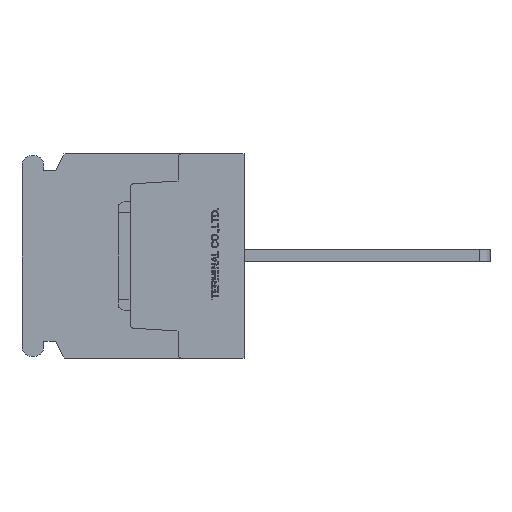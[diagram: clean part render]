
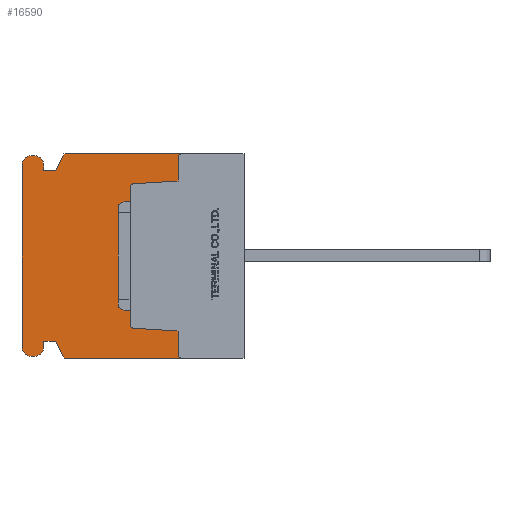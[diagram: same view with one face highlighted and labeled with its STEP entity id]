
A CAD part, left-side view. The second image highlights one B-rep face of the part: STEP entity #16590.
In plain terms, the highlighted planar face has unit normal (-1, 0, 0).
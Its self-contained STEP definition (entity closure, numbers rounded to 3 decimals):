
#977=CIRCLE('',#17624,0.3);
#979=CIRCLE('',#17628,0.3);
#981=CIRCLE('',#17633,0.3);
#983=CIRCLE('',#17636,0.3);
#992=CIRCLE('',#17793,0.75);
#993=CIRCLE('',#17794,0.75);
#994=CIRCLE('',#17795,0.75);
#995=CIRCLE('',#17796,0.75);
#1934=VERTEX_POINT('',#24763);
#1935=VERTEX_POINT('',#24765);
#1959=VERTEX_POINT('',#24819);
#1960=VERTEX_POINT('',#24821);
#2197=VERTEX_POINT('',#25651);
#2198=VERTEX_POINT('',#25652);
#2201=VERTEX_POINT('',#25660);
#2215=VERTEX_POINT('',#25690);
#2217=VERTEX_POINT('',#25696);
#2219=VERTEX_POINT('',#25702);
#2221=VERTEX_POINT('',#25708);
#2223=VERTEX_POINT('',#25717);
#2570=VERTEX_POINT('',#27259);
#2571=VERTEX_POINT('',#27261);
#2572=VERTEX_POINT('',#27263);
#2573=VERTEX_POINT('',#27265);
#2574=VERTEX_POINT('',#27267);
#2575=VERTEX_POINT('',#27269);
#2576=VERTEX_POINT('',#27271);
#2577=VERTEX_POINT('',#27273);
#2578=VERTEX_POINT('',#27275);
#2579=VERTEX_POINT('',#27277);
#2580=VERTEX_POINT('',#27279);
#2581=VERTEX_POINT('',#27281);
#3636=VECTOR('',#19843,1.);
#3664=VECTOR('',#19875,1.);
#3906=VECTOR('',#20548,1.);
#3923=VECTOR('',#20572,1.);
#3927=VECTOR('',#20583,1.);
#3930=VECTOR('',#20587,1.);
#3934=VECTOR('',#20604,1.);
#4347=VECTOR('',#21182,1.);
#4348=VECTOR('',#21183,1.);
#4349=VECTOR('',#21184,1.);
#4350=VECTOR('',#21187,1.);
#4351=VECTOR('',#21190,1.);
#4352=VECTOR('',#21193,1.);
#4353=VECTOR('',#21196,1.);
#4354=VECTOR('',#21197,1.);
#4355=VECTOR('',#21198,1.);
#5406=LINE('',#24764,#3636);
#5434=LINE('',#24820,#3664);
#5676=LINE('',#25650,#3906);
#5693=LINE('',#25689,#3923);
#5697=LINE('',#25701,#3927);
#5700=LINE('',#25707,#3930);
#5704=LINE('',#25722,#3934);
#6117=LINE('',#27258,#4347);
#6118=LINE('',#27260,#4348);
#6119=LINE('',#27262,#4349);
#6120=LINE('',#27266,#4350);
#6121=LINE('',#27270,#4351);
#6122=LINE('',#27274,#4352);
#6123=LINE('',#27278,#4353);
#6124=LINE('',#27280,#4354);
#6125=LINE('',#27282,#4355);
#7557=EDGE_CURVE('',#1934,#1935,#5406,.T.);
#7586=EDGE_CURVE('',#1959,#1960,#5434,.T.);
#7959=EDGE_CURVE('',#2197,#2198,#5676,.T.);
#7963=EDGE_CURVE('',#2201,#2197,#977,.T.);
#7978=EDGE_CURVE('',#2215,#2201,#5693,.T.);
#7981=EDGE_CURVE('',#2217,#2215,#979,.T.);
#7984=EDGE_CURVE('',#2219,#2217,#5697,.T.);
#7987=EDGE_CURVE('',#2221,#2219,#5700,.T.);
#7990=EDGE_CURVE('',#1960,#2221,#981,.T.);
#7992=EDGE_CURVE('',#2223,#1934,#983,.T.);
#7995=EDGE_CURVE('',#2198,#2223,#5704,.T.);
#8519=EDGE_CURVE('',#2570,#1959,#6117,.T.);
#8520=EDGE_CURVE('',#2571,#2570,#6118,.T.);
#8521=EDGE_CURVE('',#2572,#2571,#6119,.T.);
#8522=EDGE_CURVE('',#2573,#2572,#992,.T.);
#8523=EDGE_CURVE('',#2574,#2573,#6120,.T.);
#8524=EDGE_CURVE('',#2575,#2574,#993,.T.);
#8525=EDGE_CURVE('',#2576,#2575,#6121,.T.);
#8526=EDGE_CURVE('',#2577,#2576,#994,.T.);
#8527=EDGE_CURVE('',#2578,#2577,#6122,.T.);
#8528=EDGE_CURVE('',#2579,#2578,#995,.T.);
#8529=EDGE_CURVE('',#2580,#2579,#6123,.T.);
#8530=EDGE_CURVE('',#2581,#2580,#6124,.T.);
#8531=EDGE_CURVE('',#1935,#2581,#6125,.T.);
#13236=ORIENTED_EDGE('',*,*,#7990,.F.);
#13237=ORIENTED_EDGE('',*,*,#7586,.F.);
#13238=ORIENTED_EDGE('',*,*,#8519,.F.);
#13239=ORIENTED_EDGE('',*,*,#8520,.F.);
#13240=ORIENTED_EDGE('',*,*,#8521,.F.);
#13241=ORIENTED_EDGE('',*,*,#8522,.F.);
#13242=ORIENTED_EDGE('',*,*,#8523,.F.);
#13243=ORIENTED_EDGE('',*,*,#8524,.F.);
#13244=ORIENTED_EDGE('',*,*,#8525,.F.);
#13245=ORIENTED_EDGE('',*,*,#8526,.F.);
#13246=ORIENTED_EDGE('',*,*,#8527,.F.);
#13247=ORIENTED_EDGE('',*,*,#8528,.F.);
#13248=ORIENTED_EDGE('',*,*,#8529,.F.);
#13249=ORIENTED_EDGE('',*,*,#8530,.F.);
#13250=ORIENTED_EDGE('',*,*,#8531,.F.);
#13251=ORIENTED_EDGE('',*,*,#7557,.F.);
#13252=ORIENTED_EDGE('',*,*,#7992,.F.);
#13253=ORIENTED_EDGE('',*,*,#7995,.F.);
#13254=ORIENTED_EDGE('',*,*,#7959,.F.);
#13255=ORIENTED_EDGE('',*,*,#7963,.F.);
#13256=ORIENTED_EDGE('',*,*,#7978,.F.);
#13257=ORIENTED_EDGE('',*,*,#7981,.F.);
#13258=ORIENTED_EDGE('',*,*,#7984,.F.);
#13259=ORIENTED_EDGE('',*,*,#7987,.F.);
#14583=EDGE_LOOP('',(#13236,#13237,#13238,#13239,#13240,#13241,#13242,#13243,
#13244,#13245,#13246,#13247,#13248,#13249,#13250,#13251,#13252,#13253,#13254,
#13255,#13256,#13257,#13258,#13259));
#15639=FACE_BOUND('',#14583,.T.);
#16590=ADVANCED_FACE('',(#15639),#28188,.F.);
#17624=AXIS2_PLACEMENT_3D('',#25659,#20554,#20555);
#17628=AXIS2_PLACEMENT_3D('',#25695,#20577,#20578);
#17633=AXIS2_PLACEMENT_3D('',#25713,#20592,#20593);
#17636=AXIS2_PLACEMENT_3D('',#25716,#20598,#20599);
#17792=AXIS2_PLACEMENT_3D('',#27257,#21181,$);
#17793=AXIS2_PLACEMENT_3D('',#27264,#21185,#21186);
#17794=AXIS2_PLACEMENT_3D('',#27268,#21188,#21189);
#17795=AXIS2_PLACEMENT_3D('',#27272,#21191,#21192);
#17796=AXIS2_PLACEMENT_3D('',#27276,#21194,#21195);
#19843=DIRECTION('',(0.,1.,0.));
#19875=DIRECTION('',(0.,-1.,0.));
#20548=DIRECTION('',(0.,-0.998,-0.062));
#20554=DIRECTION('',(-1.,0.,0.));
#20555=DIRECTION('',(0.,0.,-0.3));
#20572=DIRECTION('',(0.,0.,-1.));
#20577=DIRECTION('',(-1.,0.,0.));
#20578=DIRECTION('',(0.,0.,-0.3));
#20583=DIRECTION('',(0.,0.998,-0.062));
#20587=DIRECTION('',(0.,0.,-1.));
#20592=DIRECTION('',(-1.,0.,0.));
#20593=DIRECTION('',(0.,0.,-0.3));
#20598=DIRECTION('',(-1.,0.,0.));
#20599=DIRECTION('',(0.,0.,-0.3));
#20604=DIRECTION('',(0.,0.,-1.));
#21181=DIRECTION('',(1.,0.,0.));
#21182=DIRECTION('',(0.,-0.447,0.894));
#21183=DIRECTION('',(0.,-1.,0.));
#21184=DIRECTION('',(0.,0.,-1.));
#21185=DIRECTION('',(1.,0.,0.));
#21186=DIRECTION('',(0.,0.,-0.75));
#21187=DIRECTION('',(0.,-1.,0.));
#21188=DIRECTION('',(1.,0.,0.));
#21189=DIRECTION('',(0.,0.,-0.75));
#21190=DIRECTION('',(0.,0.,1.));
#21191=DIRECTION('',(1.,0.,0.));
#21192=DIRECTION('',(0.,0.,-0.75));
#21193=DIRECTION('',(0.,1.,0.));
#21194=DIRECTION('',(1.,0.,0.));
#21195=DIRECTION('',(0.,0.,-0.75));
#21196=DIRECTION('',(0.,0.,-1.));
#21197=DIRECTION('',(0.,1.,0.));
#21198=DIRECTION('',(0.,0.447,0.894));
#24763=CARTESIAN_POINT('',(0.,5.2,-8.5));
#24764=CARTESIAN_POINT('',(0.,0.,-8.5));
#24765=CARTESIAN_POINT('',(0.,15.,-8.5));
#24819=CARTESIAN_POINT('',(0.,15.,8.5));
#24820=CARTESIAN_POINT('',(0.,15.,8.5));
#24821=CARTESIAN_POINT('',(0.,5.2,8.5));
#25650=CARTESIAN_POINT('',(0.,9.219,-6.018));
#25651=CARTESIAN_POINT('',(0.,9.219,-6.018));
#25652=CARTESIAN_POINT('',(0.,5.5,-6.25));
#25659=CARTESIAN_POINT('',(0.,9.2,-5.718));
#25660=CARTESIAN_POINT('',(0.,9.5,-5.718));
#25689=CARTESIAN_POINT('',(0.,9.5,5.718));
#25690=CARTESIAN_POINT('',(0.,9.5,5.718));
#25695=CARTESIAN_POINT('',(0.,9.2,5.718));
#25696=CARTESIAN_POINT('',(0.,9.219,6.018));
#25701=CARTESIAN_POINT('',(0.,5.5,6.25));
#25702=CARTESIAN_POINT('',(0.,5.5,6.25));
#25707=CARTESIAN_POINT('',(0.,5.5,8.2));
#25708=CARTESIAN_POINT('',(0.,5.5,8.2));
#25713=CARTESIAN_POINT('',(0.,5.2,8.2));
#25716=CARTESIAN_POINT('',(0.,5.2,-8.2));
#25717=CARTESIAN_POINT('',(0.,5.5,-8.2));
#25722=CARTESIAN_POINT('',(0.,5.5,-6.25));
#27257=CARTESIAN_POINT('',(0.,9.463,0.));
#27258=CARTESIAN_POINT('',(0.,15.7,7.1));
#27259=CARTESIAN_POINT('',(0.,15.7,7.1));
#27260=CARTESIAN_POINT('',(0.,16.7,7.1));
#27261=CARTESIAN_POINT('',(0.,16.7,7.1));
#27262=CARTESIAN_POINT('',(0.,16.7,7.6));
#27263=CARTESIAN_POINT('',(0.,16.7,7.6));
#27264=CARTESIAN_POINT('',(0.,17.45,7.6));
#27265=CARTESIAN_POINT('',(0.,17.45,8.35));
#27266=CARTESIAN_POINT('',(0.,17.75,8.35));
#27267=CARTESIAN_POINT('',(0.,17.75,8.35));
#27268=CARTESIAN_POINT('',(0.,17.75,7.6));
#27269=CARTESIAN_POINT('',(0.,18.5,7.6));
#27270=CARTESIAN_POINT('',(0.,18.5,-7.6));
#27271=CARTESIAN_POINT('',(0.,18.5,-7.6));
#27272=CARTESIAN_POINT('',(0.,17.75,-7.6));
#27273=CARTESIAN_POINT('',(0.,17.75,-8.35));
#27274=CARTESIAN_POINT('',(0.,17.45,-8.35));
#27275=CARTESIAN_POINT('',(0.,17.45,-8.35));
#27276=CARTESIAN_POINT('',(0.,17.45,-7.6));
#27277=CARTESIAN_POINT('',(0.,16.7,-7.6));
#27278=CARTESIAN_POINT('',(0.,16.7,-7.1));
#27279=CARTESIAN_POINT('',(0.,16.7,-7.1));
#27280=CARTESIAN_POINT('',(0.,15.7,-7.1));
#27281=CARTESIAN_POINT('',(0.,15.7,-7.1));
#27282=CARTESIAN_POINT('',(0.,15.,-8.5));
#28188=PLANE('',#17792);
